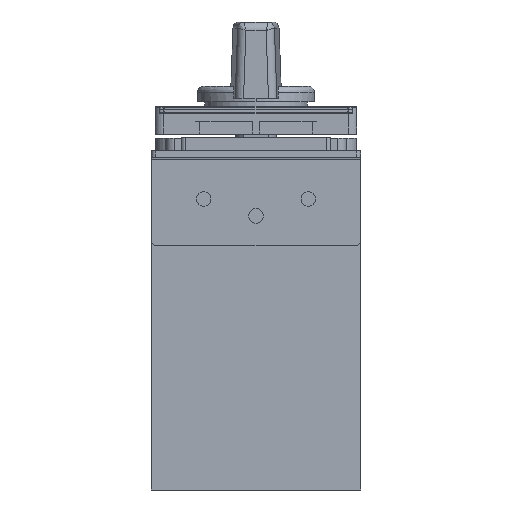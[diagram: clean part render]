
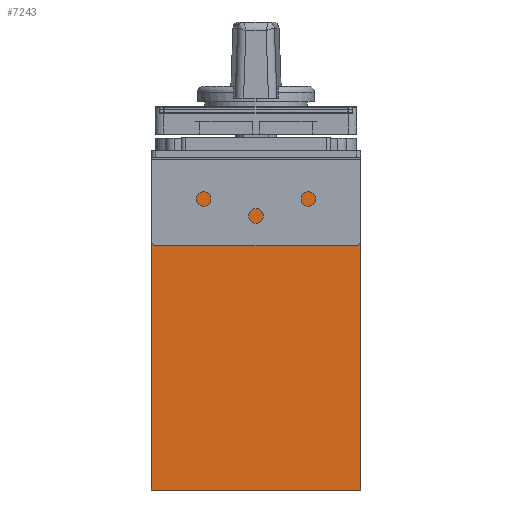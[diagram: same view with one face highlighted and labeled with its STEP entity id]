
A CAD part, left-side view. The second image highlights one B-rep face of the part: STEP entity #7243.
In plain terms, the highlighted planar face has unit normal (-1, 0, 0).
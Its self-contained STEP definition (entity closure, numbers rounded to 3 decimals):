
#7243 = ADVANCED_FACE ( 'NONE', ( #9651 ), #19340, .F. ) ;
#7702 = EDGE_CURVE ( 'NONE', #94305, #86348, #47232, .T. ) ;
#8255 = VECTOR ( 'NONE', #95003, 1000. ) ;
#9651 = FACE_OUTER_BOUND ( 'NONE', #108832, .T. ) ;
#9829 = CARTESIAN_POINT ( 'NONE',  ( -146.735, -98.615, 622.597 ) ) ;
#15475 = CARTESIAN_POINT ( 'NONE',  ( -146.735, -98.615, 541.597 ) ) ;
#19340 = PLANE ( 'NONE',  #127578 ) ;
#27386 = EDGE_CURVE ( 'NONE', #64802, #86348, #48128, .T. ) ;
#29518 = EDGE_CURVE ( 'NONE', #104841, #64802, #94328, .T. ) ;
#34389 = VECTOR ( 'NONE', #68832, 1000. ) ;
#34805 = CARTESIAN_POINT ( 'NONE',  ( -146.735, -48.615, 541.597 ) ) ;
#41882 = CARTESIAN_POINT ( 'NONE',  ( -146.735, -48.615, 622.597 ) ) ;
#44345 = ORIENTED_EDGE ( 'NONE', *, *, #7702, .T. ) ;
#47232 = LINE ( 'NONE', #34805, #134298 ) ;
#48042 = DIRECTION ( 'NONE',  ( 0., 0., -1. ) ) ;
#48128 = LINE ( 'NONE', #133821, #34389 ) ;
#51164 = DIRECTION ( 'NONE',  ( 1., 0., 0. ) ) ;
#52861 = CARTESIAN_POINT ( 'NONE',  ( -146.735, -48.615, 622.597 ) ) ;
#56706 = EDGE_CURVE ( 'NONE', #104841, #94305, #121316, .T. ) ;
#58194 = ORIENTED_EDGE ( 'NONE', *, *, #27386, .F. ) ;
#64802 = VERTEX_POINT ( 'NONE', #9829 ) ;
#65124 = ORIENTED_EDGE ( 'NONE', *, *, #29518, .F. ) ;
#68832 = DIRECTION ( 'NONE',  ( 0., 0., -1. ) ) ;
#77521 = ORIENTED_EDGE ( 'NONE', *, *, #56706, .T. ) ;
#86348 = VERTEX_POINT ( 'NONE', #15475 ) ;
#89378 = DIRECTION ( 'NONE',  ( 0., -1., 0. ) ) ;
#90278 = CARTESIAN_POINT ( 'NONE',  ( -146.735, -48.615, 541.597 ) ) ;
#91013 = VECTOR ( 'NONE', #48042, 1000. ) ;
#93294 = DIRECTION ( 'NONE',  ( 0., 0., -1. ) ) ;
#93974 = CARTESIAN_POINT ( 'NONE',  ( -146.735, -48.615, 622.597 ) ) ;
#94305 = VERTEX_POINT ( 'NONE', #90278 ) ;
#94328 = LINE ( 'NONE', #52861, #8255 ) ;
#95003 = DIRECTION ( 'NONE',  ( 0., -1., 0. ) ) ;
#104841 = VERTEX_POINT ( 'NONE', #41882 ) ;
#108832 = EDGE_LOOP ( 'NONE', ( #44345, #58194, #65124, #77521 ) ) ;
#121316 = LINE ( 'NONE', #129650, #91013 ) ;
#127578 = AXIS2_PLACEMENT_3D ( 'NONE', #93974, #51164, #93294 ) ;
#129650 = CARTESIAN_POINT ( 'NONE',  ( -146.735, -48.615, 622.597 ) ) ;
#133821 = CARTESIAN_POINT ( 'NONE',  ( -146.735, -98.615, 622.597 ) ) ;
#134298 = VECTOR ( 'NONE', #89378, 1000. ) ;
